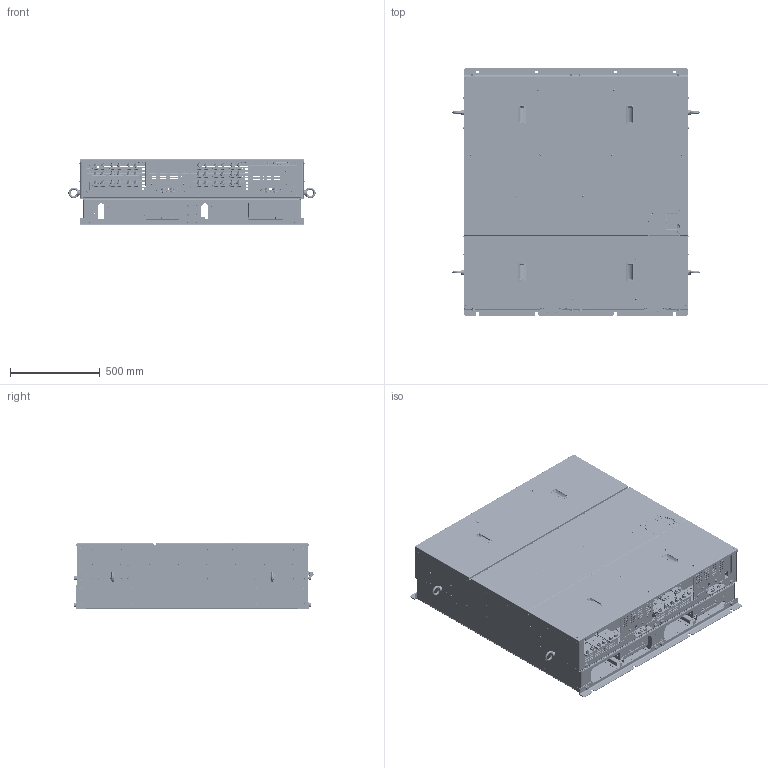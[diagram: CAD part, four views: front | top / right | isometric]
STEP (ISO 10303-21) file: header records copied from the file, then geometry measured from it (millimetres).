
FILE_DESCRIPTION((''),'2;1');
FILE_NAME('A1000_FRAME_P','2021-04-15T',('jam'),('YASKAWA ELECTRIC CORCORATION'),'PRO/ENGINEER BY PARAMETRIC TECHNOLOGY CORPORATION, 2017170','PRO/ENGINEER BY PARAMETRIC TECHNOLOGY CORPORATION, 2017170','');
FILE_SCHEMA(('AUTOMOTIVE_DESIGN { 1 0 10303 214 1 1 1 1 }'));
Products named in the file (1): A1000_FRAME_P
Bounding box: 1381.2 x 1380 x 374.01 mm (x, y, z)
Surface area: 21288548.8 mm2 (no closed solid volume)
Topology: 0 solids, 2052 shells, 14244 faces, 52954 edges, 39741 vertices
Faces by surface type: plane 7914, cylinder 2943, cone 1683, bspline 931, torus 391, sphere 379, extrusion 3
Entity records: 797887 total; most frequent: CARTESIAN_POINT 369372, DIRECTION 81093, ORIENTED_EDGE 78973, EDGE_CURVE 52571, VERTEX_POINT 39758, VECTOR 29197, LINE 29194, AXIS2_PLACEMENT_3D 25948
